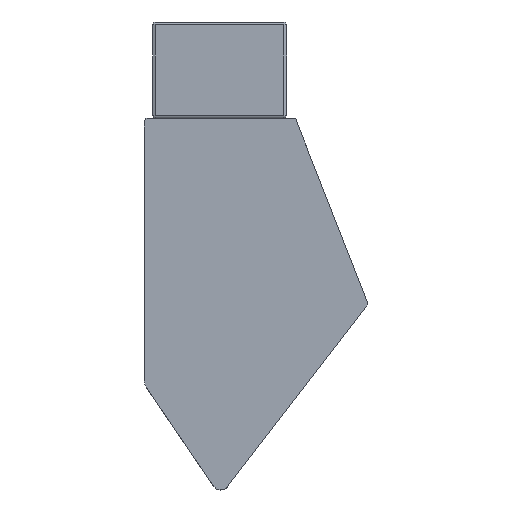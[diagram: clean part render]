
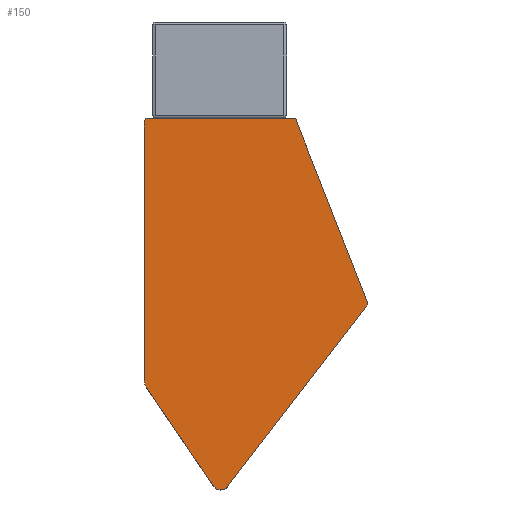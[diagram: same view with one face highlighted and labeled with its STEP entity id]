
A CAD part, front view. The second image highlights one B-rep face of the part: STEP entity #150.
In plain terms, the highlighted planar face has unit normal (0, -1, 0).
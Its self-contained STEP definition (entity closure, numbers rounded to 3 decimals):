
#150=ADVANCED_FACE('',(#274),#1834,.T.);
#274=FACE_OUTER_BOUND('',#400,.T.);
#400=EDGE_LOOP('',(#939,#940,#941,#942,#943,#944,#945,#946,#947,#948));
#939=ORIENTED_EDGE('',*,*,#1217,.T.);
#940=ORIENTED_EDGE('',*,*,#1221,.T.);
#941=ORIENTED_EDGE('',*,*,#1224,.T.);
#942=ORIENTED_EDGE('',*,*,#1227,.T.);
#943=ORIENTED_EDGE('',*,*,#1230,.T.);
#944=ORIENTED_EDGE('',*,*,#1233,.T.);
#945=ORIENTED_EDGE('',*,*,#1236,.T.);
#946=ORIENTED_EDGE('',*,*,#1239,.T.);
#947=ORIENTED_EDGE('',*,*,#1242,.T.);
#948=ORIENTED_EDGE('',*,*,#1244,.T.);
#1217=EDGE_CURVE('',#1692,#1691,#1517,.T.);
#1221=EDGE_CURVE('',#1691,#1694,#1426,.T.);
#1224=EDGE_CURVE('',#1694,#1696,#1521,.T.);
#1227=EDGE_CURVE('',#1696,#1698,#1429,.T.);
#1230=EDGE_CURVE('',#1698,#1700,#1524,.T.);
#1233=EDGE_CURVE('',#1700,#1702,#1432,.T.);
#1236=EDGE_CURVE('',#1702,#1704,#1527,.T.);
#1239=EDGE_CURVE('',#1704,#1706,#1435,.T.);
#1242=EDGE_CURVE('',#1706,#1708,#1530,.T.);
#1244=EDGE_CURVE('',#1708,#1692,#1437,.T.);
#1426=(
BOUNDED_CURVE()
B_SPLINE_CURVE(2,(#3831,#3832,#3833),.UNSPECIFIED.,.F.,.F.)
B_SPLINE_CURVE_WITH_KNOTS((3,3),(41.03,41.545),
 .UNSPECIFIED.)
CURVE()
GEOMETRIC_REPRESENTATION_ITEM()
RATIONAL_B_SPLINE_CURVE((1.,0.87,1.))
REPRESENTATION_ITEM('')
);
#1429=(
BOUNDED_CURVE()
B_SPLINE_CURVE(2,(#3845,#3846,#3847),.UNSPECIFIED.,.F.,.F.)
B_SPLINE_CURVE_WITH_KNOTS((3,3),(76.585,77.183),
 .UNSPECIFIED.)
CURVE()
GEOMETRIC_REPRESENTATION_ITEM()
RATIONAL_B_SPLINE_CURVE((1.,0.826,1.))
REPRESENTATION_ITEM('')
);
#1432=(
BOUNDED_CURVE()
B_SPLINE_CURVE(2,(#3859,#3860,#3861),.UNSPECIFIED.,.F.,.F.)
B_SPLINE_CURVE_WITH_KNOTS((3,3),(103.343,104.128),
 .UNSPECIFIED.)
CURVE()
GEOMETRIC_REPRESENTATION_ITEM()
RATIONAL_B_SPLINE_CURVE((1.,0.707,1.))
REPRESENTATION_ITEM('')
);
#1435=(
BOUNDED_CURVE()
B_SPLINE_CURVE(2,(#3873,#3874,#3875),.UNSPECIFIED.,.F.,.F.)
B_SPLINE_CURVE_WITH_KNOTS((3,3),(150.632,151.826),
 .UNSPECIFIED.)
CURVE()
GEOMETRIC_REPRESENTATION_ITEM()
RATIONAL_B_SPLINE_CURVE((1.,0.956,1.))
REPRESENTATION_ITEM('')
);
#1437=(
BOUNDED_CURVE()
B_SPLINE_CURVE(2,(#3887,#3888,#3889,#3890,#3891),.UNSPECIFIED.,.F.,.F.)
B_SPLINE_CURVE_WITH_KNOTS((3,2,3),(173.273,174.69,176.107),
 .UNSPECIFIED.)
CURVE()
GEOMETRIC_REPRESENTATION_ITEM()
RATIONAL_B_SPLINE_CURVE((1.,0.891,1.,0.891,1.))
REPRESENTATION_ITEM('')
);
#1517=B_SPLINE_CURVE_WITH_KNOTS('',1,(#3822,#3823),.UNSPECIFIED.,.F.,.F.,
(2,2),(0.,41.03),.UNSPECIFIED.);
#1521=B_SPLINE_CURVE_WITH_KNOTS('',1,(#3838,#3839),.UNSPECIFIED.,.F.,.F.,
(2,2),(41.545,76.585),.UNSPECIFIED.);
#1524=B_SPLINE_CURVE_WITH_KNOTS('',1,(#3852,#3853),.UNSPECIFIED.,.F.,.F.,
(2,2),(77.183,103.343),.UNSPECIFIED.);
#1527=B_SPLINE_CURVE_WITH_KNOTS('',1,(#3866,#3867),.UNSPECIFIED.,.F.,.F.,
(2,2),(104.128,150.632),.UNSPECIFIED.);
#1530=B_SPLINE_CURVE_WITH_KNOTS('',1,(#3880,#3881),.UNSPECIFIED.,.F.,.F.,
(2,2),(151.826,173.273),.UNSPECIFIED.);
#1691=VERTEX_POINT('',#3800);
#1692=VERTEX_POINT('',#3801);
#1694=VERTEX_POINT('',#3803);
#1696=VERTEX_POINT('',#3805);
#1698=VERTEX_POINT('',#3807);
#1700=VERTEX_POINT('',#3809);
#1702=VERTEX_POINT('',#3811);
#1704=VERTEX_POINT('',#3813);
#1706=VERTEX_POINT('',#3815);
#1708=VERTEX_POINT('',#3817);
#1834=PLANE('',#2023);
#2023=AXIS2_PLACEMENT_3D('',#3797,#2129,$);
#2129=DIRECTION('',(0.,-1.,0.));
#3797=CARTESIAN_POINT('',(-22.622,-308.004,-70.842));
#3800=CARTESIAN_POINT('',(22.224,-308.004,-29.425));
#3801=CARTESIAN_POINT('',(-2.8,-308.004,-61.941));
#3803=CARTESIAN_POINT('',(22.293,-308.004,-28.937));
#3805=CARTESIAN_POINT('',(9.497,-308.004,3.683));
#3807=CARTESIAN_POINT('',(9.031,-308.004,4.));
#3809=CARTESIAN_POINT('',(-17.128,-308.004,4.));
#3811=CARTESIAN_POINT('',(-17.628,-308.004,3.5));
#3813=CARTESIAN_POINT('',(-17.628,-308.004,-43.004));
#3815=CARTESIAN_POINT('',(-17.282,-308.004,-44.128));
#3817=CARTESIAN_POINT('',(-5.229,-308.004,-61.869));
#3822=CARTESIAN_POINT('',(-2.8,-308.004,-61.941));
#3823=CARTESIAN_POINT('',(22.224,-308.004,-29.425));
#3831=CARTESIAN_POINT('',(22.224,-308.004,-29.425));
#3832=CARTESIAN_POINT('',(22.396,-308.004,-29.201));
#3833=CARTESIAN_POINT('',(22.293,-308.004,-28.937));
#3838=CARTESIAN_POINT('',(22.293,-308.004,-28.937));
#3839=CARTESIAN_POINT('',(9.497,-308.004,3.683));
#3845=CARTESIAN_POINT('',(9.497,-308.004,3.683));
#3846=CARTESIAN_POINT('',(9.372,-308.004,4.));
#3847=CARTESIAN_POINT('',(9.031,-308.004,4.));
#3852=CARTESIAN_POINT('',(9.031,-308.004,4.));
#3853=CARTESIAN_POINT('',(-17.128,-308.004,4.));
#3859=CARTESIAN_POINT('',(-17.128,-308.004,4.));
#3860=CARTESIAN_POINT('',(-17.628,-308.004,4.));
#3861=CARTESIAN_POINT('',(-17.628,-308.004,3.5));
#3866=CARTESIAN_POINT('',(-17.628,-308.004,3.5));
#3867=CARTESIAN_POINT('',(-17.628,-308.004,-43.004));
#3873=CARTESIAN_POINT('',(-17.628,-308.004,-43.004));
#3874=CARTESIAN_POINT('',(-17.628,-308.004,-43.62));
#3875=CARTESIAN_POINT('',(-17.282,-308.004,-44.128));
#3880=CARTESIAN_POINT('',(-17.282,-308.004,-44.128));
#3881=CARTESIAN_POINT('',(-5.229,-308.004,-61.869));
#3887=CARTESIAN_POINT('',(-5.229,-308.004,-61.869));
#3888=CARTESIAN_POINT('',(-4.799,-308.004,-62.503));
#3889=CARTESIAN_POINT('',(-4.033,-308.004,-62.525));
#3890=CARTESIAN_POINT('',(-3.267,-308.004,-62.548));
#3891=CARTESIAN_POINT('',(-2.8,-308.004,-61.941));
